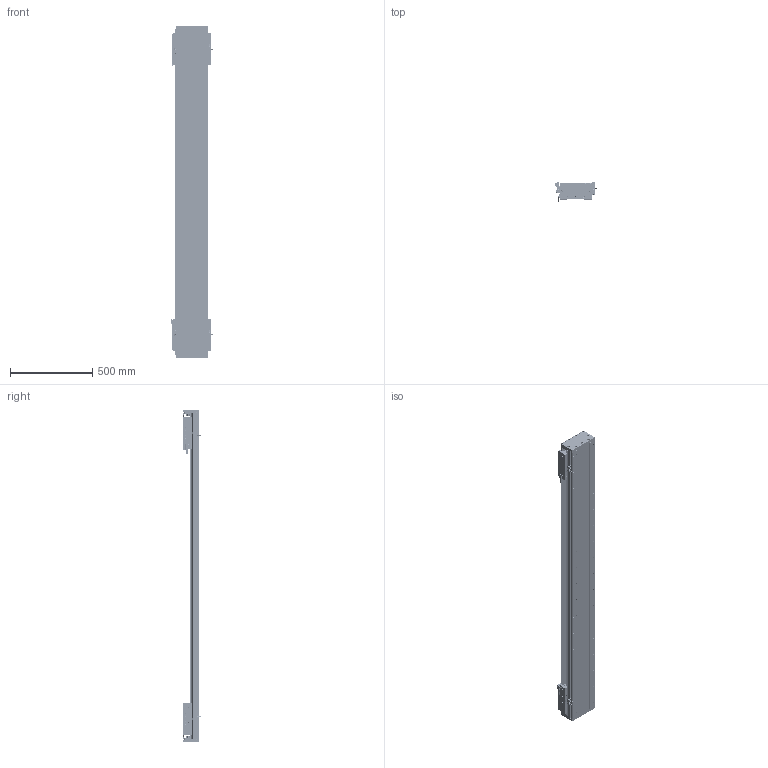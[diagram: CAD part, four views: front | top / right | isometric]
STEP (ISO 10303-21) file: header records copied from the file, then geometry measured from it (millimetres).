
FILE_DESCRIPTION (( 'STEP AP203' ), '1' );
FILE_NAME ('DA-C195-2-C2-T1520-C010-0.2 眻盄萇儂.STEP', '2025-08-14T02:05:10', ( '' ), ( '' ), 'SwSTEP 2.0', 'SolidWorks 2019', '' );
FILE_SCHEMA (( 'CONFIG_CONTROL_DESIGN' ));
Length unit declared in the file: millimetre
Products named in the file (19): DA195詩湍郪璃; DA195詩湍裔啣; CU195-C2賑輸-俋楷; IU-CU195-L 菁釱絳寢; LMT黍杅芛; DA195詩湍菜輸; MS200 棠掑喜S315-T1740; DKW-KGZ-ZJ-00 中间光电开关支架; DKW-GYP-ZJ-00 笢潔嫖萇覜茼え; IU-CU195-L-00 菁釱(L1980); DKW168-HXJ-ZJ-00 笢潔滅袉砎蝶; PM-T45ㄗ侂狟ㄘ; DA-C195-GD-DB-H-00 傷啣; DA-C195-2-C2-T1520-C010-0.2 眻盄萇儂; 葩璃 DA95-GT-T-00; DA165-GYP-00 光电感应片(默认); DA95-HXJ-00 遣喳砎蝶; PM-Y65嫖萇羲壽郪璃; DA195詩湍嶺輸
Assembly tree (37 placements, depth 3):
  DA-C195-2-C2-T1520-C010-0.2 眻盄萇儂
    DA195詩湍郪璃
      DA195詩湍菜輸  x2
      DA195詩湍裔啣
      DA195詩湍嶺輸  x2
      DA95-HXJ-00 遣喳砎蝶  x8
      DA-C195-GD-DB-H-00 傷啣  x2
    IU-CU195-L 菁釱絳寢
      IU-CU195-L-00 菁釱(L1980)
      葩璃 DA95-GT-T-00  x4
    LMT黍杅芛  x2
    MS200 棠掑喜S315-T1740
    PM-T45ㄗ侂狟ㄘ  x4
    DA165-GYP-00 光电感应片(默认)  x2
    PM-Y65嫖萇羲壽郪璃
    DKW168-HXJ-ZJ-00 笢潔滅袉砎蝶
    DKW-GYP-ZJ-00 笢潔嫖萇覜茼え
    DKW-KGZ-ZJ-00 中间光电开关支架
    CU195-C2賑輸-俋楷  x2
Bounding box: 258.2 x 115.45 x 2020 mm (x, y, z)
Volume: 13237460.3 mm3; surface area: 3787601.1 mm2
Topology: 114 solids, 242 shells, 6767 faces, 17663 edges, 10945 vertices
Faces by surface type: cylinder 3068, plane 2615, cone 916, torus 88, sphere 72, bspline 8
Entity records: 138541 total; most frequent: CARTESIAN_POINT 35543, ORIENTED_EDGE 21158, DIRECTION 20714, EDGE_CURVE 10579, AXIS2_PLACEMENT_3D 7605, VERTEX_POINT 6832, VECTOR 5504, LINE 5504
